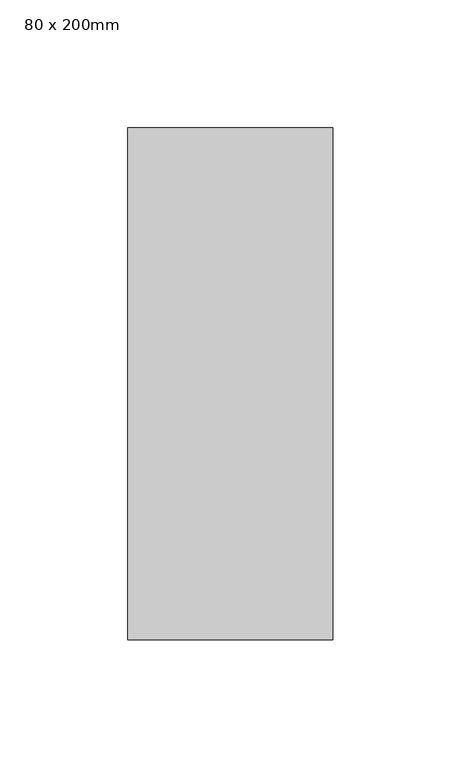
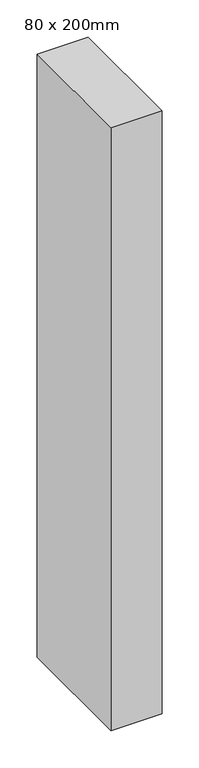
"""IFC4 building model written with IfcOpenShell, lengths in millimetres: member geometry, 矩形竖梃 : 80 x 200mm."""

from ifc_helpers import new_model, si_unit, frame, origin, place, context, project, spatial, polyline, outline, extrude, source, transform, mapped, element, save


def member_80_x_200mm_ad283842(model_context):
    return source(origin(), model_context, "Body", "SweptSolid", [
        extrude(outline(polyline([(0.0, 100.0), (0.0, -100.0), (-80.0, -100.0), (-80.0, 100.0), (0.0, 100.0)])), frame((0.0, 0.0, -995.0), z_axis=(0.0, 0.0, 1.0), x_axis=(1.0, 0.0, 0.0)), (0.0, 0.0, 1.0), 995.0),
    ])


if __name__ == "__main__":
    model = new_model("IFC4")
    model_context = context("Model", 3, world=origin())
    ifc_project = project(units=[si_unit("LENGTHUNIT", "METRE", prefix="MILLI")], contexts=[model_context])
    site = spatial("IfcSite", under=ifc_project)
    building = spatial("IfcBuilding", under=site)
    placement = place(None, origin())
    member_80_x_200mm_shape = member_80_x_200mm_ad283842(model_context)
    element("IfcMember", 1, ObjectType="矩形竖梃 : 80 x 200mm", at=placement, inside=building, context=model_context, shape_type="MappedRepresentation", body=[
        mapped(member_80_x_200mm_shape, transform((0.0, 0.0, 0.0), x_axis=(1.0, 0.0, 0.0), y_axis=(0.0, 1.0, 0.0), z_axis=(0.0, 0.0, 1.0))),
    ])
    save(model, "model.ifc")
